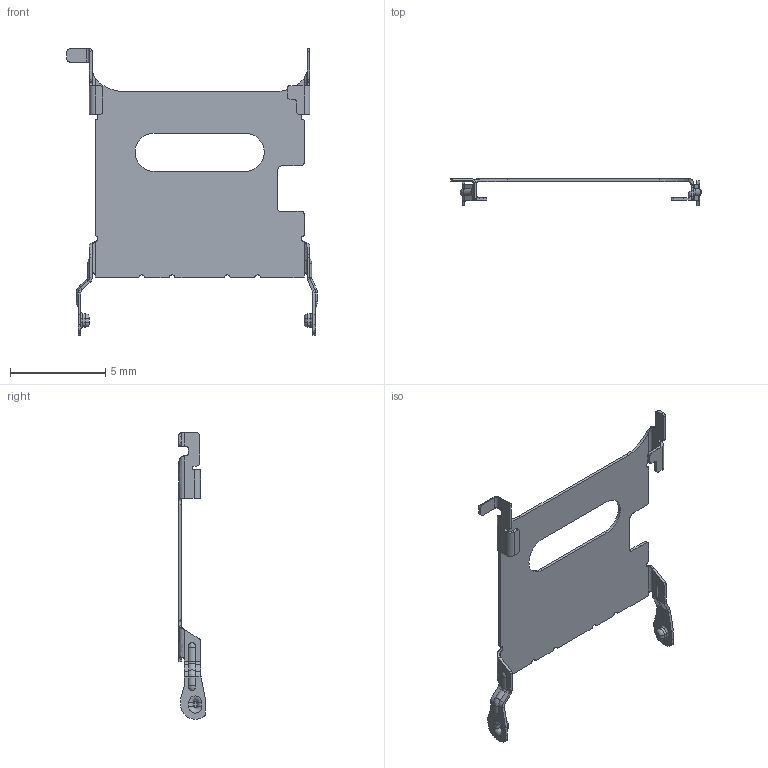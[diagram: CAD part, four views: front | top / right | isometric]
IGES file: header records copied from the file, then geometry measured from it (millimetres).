
Start section:  PTC IGES file: s-dsc20-114xx0_1_prt.igs
Global section: file name: s-dsc20-114xx0_1_prt.igs; native system: Pro/ENGINEER by Parametric Technology Corporation; preprocessor: 2006170; author: GRA; organization: Unknown; date: 20080630.105208; units: millimetre
Bounding box: 13.2 x 1.4 x 15.07 mm (x, y, z)
Surface area: 245.2 mm2 (no closed solid volume)
Topology: 0 solids, 0 shells, 623 faces, 3380 edges, 3380 vertices
Faces by surface type: bspline 484, revolution 139
